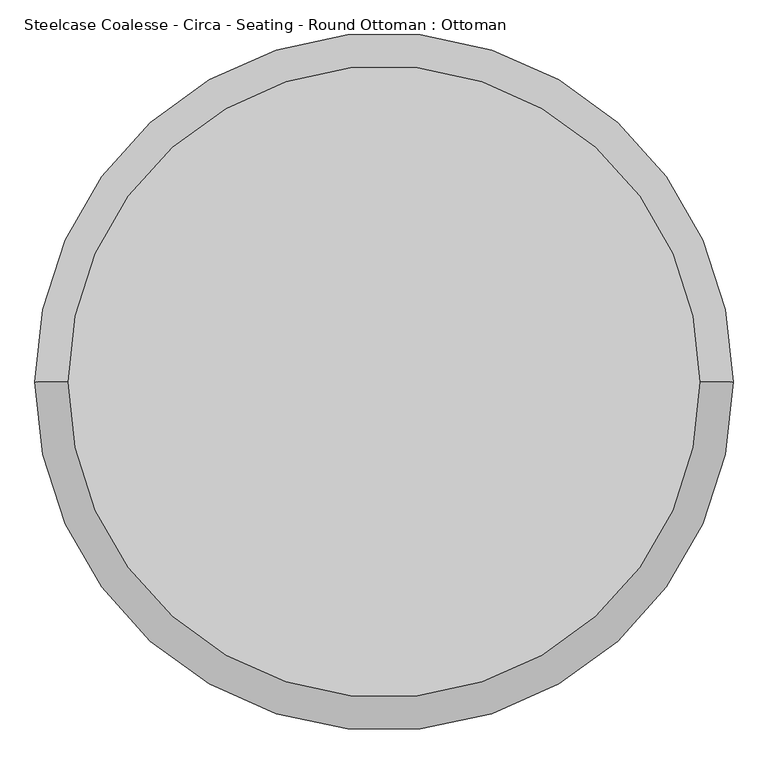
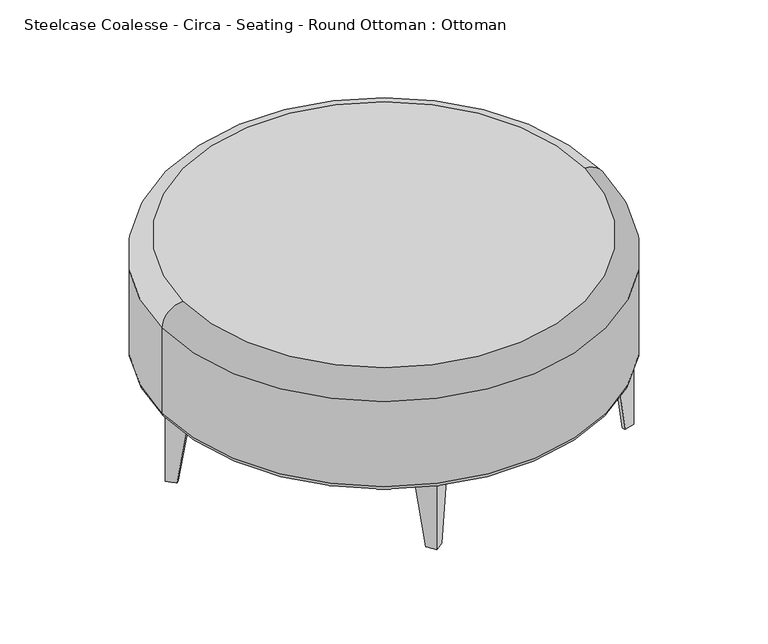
"""IFC4 building model written with IfcOpenShell, lengths in millimetres: furniture geometry, Steelcase Coalesse - Circa - Seating - Round Ottoman : Ottoman."""

from ifc_helpers import new_model, si_unit, point, frame, origin, place, context, project, spatial, circle_curve, ellipse_curve, trimmed, source, transform, mapped, element, save
from ifc_brep_helpers import plane_surface, cylinder_surface, revolved_surface, spline_surface, advanced_brep


def steelcase_coalesse_circa_seating_round_ottoman_ottoman_008e5c35(model_context):
    return source(origin(), model_context, "Body", "AdvancedBrep", [
        advanced_brep(
        [(-235.4429476, 526.8487146, 0.0), (-239.4164189, 501.7614365, 0.0), (-248.8235854, 503.2513255, 0.0), (-262.0188638, 521.4134724, 0.0), (-260.5286946, 530.8219434, 0.0), (-235.4425591, 526.8474513, 163.6120227), (-285.6152128, 534.794019, 163.6120227), (-287.1052077, 525.3866486, 163.6120227), (-252.7968369, 478.165435, 163.6120227), (-243.3891076, 476.6753832, 163.6120227)],
        [
            (0, 1),
            (1, 2),
            (2, 3),
            (3, 4),
            (4, 0),
            (5, 6),
            (6, 7),
            (7, 8),
            (8, 9),
            (9, 5),
            (9, 1),
            (0, 5),
            (8, 2),
            (7, 3),
            (6, 4),
        ],
        [
            plane_surface(frame((-249.2461021, 516.8193785, 0.0), z_axis=(0.0, 0.0, -1.0000000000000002), x_axis=(0.15643587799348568, 0.9876881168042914, 0.0))),
            plane_surface(frame((-260.8697848, 508.3737874, 163.6120227), z_axis=(0.0, 0.0, 1.0000000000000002), x_axis=(0.15643587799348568, 0.9876881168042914, 0.0))),
            plane_surface(frame((-239.4158333, 501.7614173, 163.6120227), z_axis=(0.9876881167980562, -0.15643587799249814, -3.553283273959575e-06), x_axis=(-0.15643587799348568, -0.9876881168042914, 0.0))),
            spline_surface(1, 1, [[(-243.3891076, 476.6753832, 163.6120227), (-239.4164189, 501.7614365, 0.0)], [(-252.7968369, 478.165435, 163.6120227), (-248.8235854, 503.2513255, 0.0)]], [2, 2], [2, 2], [0.0, 1.0], [0.0, 1.0]),
            spline_surface(1, 1, [[(-252.7968369, 478.165435, 163.6120227), (-248.8235854, 503.2513255, 0.0)], [(-287.1052077, 525.3866486, 163.6120227), (-262.0188638, 521.4134724, 0.0)]], [2, 2], [2, 2], [0.0, 1.0], [0.0, 1.0]),
            plane_surface(frame((-286.3602102, 530.0903338, 163.6120227), z_axis=(-0.9759977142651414, 0.15458428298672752, -0.15340195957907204), x_axis=(0.15643587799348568, 0.9876881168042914, 0.0))),
            spline_surface(1, 1, [[(-285.6152128, 534.794019, 163.6120227), (-260.5286946, 530.8219434, 0.0)], [(-235.4425591, 526.8474513, 163.6120227), (-235.4429476, 526.8487146, 0.0)]], [2, 2], [2, 2], [0.0, 1.0], [0.0, 1.0]),
        ],
        [
            (0, [[1, 2, 3, 4, 5]]),
            (1, [[6, 7, 8, 9, 10]]),
            (2, [[-10, 11, -1, 12]]),
            (3, [[-9, 13, -2, -11]]),
            (4, [[-8, 14, -3, -13]]),
            (5, [[-7, 15, -4, -14]]),
            (6, [[-6, -12, -5, -15]]),
        ],
    ),
        advanced_brep(
        [(-824.2709256, 713.206152, 0.0), (-801.4429342, 702.0722372, 0.0), (-805.6187364, 693.510543, 0.0), (-826.8450551, 686.2014839, 0.0), (-835.40552, 690.3767673, 0.0), (-824.2719684, 713.2053401, 163.6120227), (-846.540053, 667.5488349, 163.6120227), (-837.9790337, 663.373362, 163.6120227), (-782.7902862, 682.3762426, 163.6120227), (-778.6149726, 690.9369353, 163.6120227)],
        [
            (0, 1),
            (1, 2),
            (2, 3),
            (3, 4),
            (4, 0),
            (5, 6),
            (6, 7),
            (7, 8),
            (8, 9),
            (9, 5),
            (9, 1),
            (0, 5),
            (8, 2),
            (7, 3),
            (6, 4),
        ],
        [
            plane_surface(frame((-818.7166343, 697.0734367, 0.0), z_axis=(0.0, 0.0, -1.0), x_axis=(0.8987913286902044, -0.4383767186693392, 0.0))),
            plane_surface(frame((-814.0392628, 683.488143, 163.6120227), z_axis=(0.0, 0.0, 1.0), x_axis=(0.8987913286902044, -0.4383767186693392, 0.0))),
            spline_surface(1, 1, [[(-824.2719684, 713.2053401, 163.6120227), (-824.2709256, 713.206152, 0.0)], [(-778.6149726, 690.9369353, 163.6120227), (-801.4429342, 702.0722372, 0.0)]], [2, 2], [2, 2], [0.0, 1.0], [0.0, 1.0]),
            plane_surface(frame((-780.7026294, 686.656589, 163.6120227), z_axis=(0.888156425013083, -0.43318125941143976, -0.15340195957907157), x_axis=(-0.43836986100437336, -0.8987946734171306, 0.0))),
            spline_surface(1, 1, [[(-782.7902862, 682.3762426, 163.6120227), (-805.6187364, 693.510543, 0.0)], [(-837.9790337, 663.373362, 163.6120227), (-826.8450551, 686.2014839, 0.0)]], [2, 2], [2, 2], [0.0, 1.0], [0.0, 1.0]),
            spline_surface(1, 1, [[(-837.9790337, 663.373362, 163.6120227), (-826.8450551, 686.2014839, 0.0)], [(-846.540053, 667.5488349, 163.6120227), (-835.40552, 690.3767673, 0.0)]], [2, 2], [2, 2], [0.0, 1.0], [0.0, 1.0]),
            plane_surface(frame((-835.4060107, 690.3770875, 163.6120227), z_axis=(-0.8987946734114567, 0.438369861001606, -3.5532832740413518e-06), x_axis=(0.43836986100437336, 0.8987946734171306, 0.0))),
        ],
        [
            (0, [[1, 2, 3, 4, 5]]),
            (1, [[6, 7, 8, 9, 10]]),
            (2, [[-10, 11, -1, 12]]),
            (3, [[-9, 13, -2, -11]]),
            (4, [[-8, 14, -3, -13]]),
            (5, [[-7, 15, -4, -14]]),
            (6, [[-6, -12, -5, -15]]),
        ],
    ),
        advanced_brep(
        [(-240.9443374, -92.7037442, 0.0), (-265.3603945, -99.7048981, 0.0), (-267.9857368, -90.5494555, 0.0), (-257.1018072, -70.914817, 0.0), (-247.945064, -68.2891773, 0.0), (-240.9453181, -92.7046302, 163.6120227), (-254.9471616, -43.8743988, 163.6120227), (-264.1028338, -46.4997314, 163.6120227), (-292.4004434, -97.5502222, 163.6120227), (-289.7750107, -106.7062436, 163.6120227)],
        [
            (0, 1),
            (1, 2),
            (2, 3),
            (3, 4),
            (4, 0),
            (5, 6),
            (6, 7),
            (7, 8),
            (8, 9),
            (9, 5),
            (9, 1),
            (0, 5),
            (8, 2),
            (7, 3),
            (6, 4),
        ],
        [
            plane_surface(frame((-255.867468, -84.4324184, 0.0), z_axis=(0.0, 0.0, -1.0000000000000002), x_axis=(0.9612620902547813, 0.27563598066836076, 0.0))),
            plane_surface(frame((-268.4341535, -77.4670452, 163.6120227), z_axis=(0.0, 0.0, 1.0000000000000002), x_axis=(0.9612620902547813, 0.27563598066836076, 0.0))),
            plane_surface(frame((-265.3601644, -99.7054369, 163.6120227), z_axis=(0.2756359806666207, -0.961262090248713, -3.5532832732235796e-06), x_axis=(-0.9612620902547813, -0.27563598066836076, 0.0))),
            spline_surface(1, 1, [[(-289.7750107, -106.7062436, 163.6120227), (-265.3603945, -99.7048981, 0.0)], [(-292.4004434, -97.5502222, 163.6120227), (-267.9857368, -90.5494555, 0.0)]], [2, 2], [2, 2], [0.0, 1.0], [0.0, 1.0]),
            spline_surface(1, 1, [[(-292.4004434, -97.5502222, 163.6120227), (-267.9857368, -90.5494555, 0.0)], [(-264.1028338, -46.4997314, 163.6120227), (-257.1018072, -70.914817, 0.0)]], [2, 2], [2, 2], [0.0, 1.0], [0.0, 1.0]),
            plane_surface(frame((-259.5249977, -45.1870651, 163.6120227), z_axis=(-0.2723735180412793, 0.9498844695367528, -0.1534019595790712), x_axis=(0.9612620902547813, 0.27563598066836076, 0.0))),
            spline_surface(1, 1, [[(-254.9471616, -43.8743988, 163.6120227), (-247.945064, -68.2891773, 0.0)], [(-240.9453181, -92.7046302, 163.6120227), (-240.9443374, -92.7037442, 0.0)]], [2, 2], [2, 2], [0.0, 1.0], [0.0, 1.0]),
        ],
        [
            (0, [[1, 2, 3, 4, 5]]),
            (1, [[6, 7, 8, 9, 10]]),
            (2, [[-10, 11, -1, 12]]),
            (3, [[-9, 13, -2, -11]]),
            (4, [[-8, 14, -3, -13]]),
            (5, [[-7, 15, -4, -14]]),
            (6, [[-6, -12, -5, -15]]),
        ],
    ),
        advanced_brep(
        [(-824.5171767, -280.9402461, 0.0), (-839.0851588, -260.135075, 0.0), (-831.2821282, -254.6713175, 0.0), (-809.1736694, -258.569394, 0.0), (-803.7107356, -266.3713749, 0.0), (-824.515871, -280.9400416, 163.6120227), (-782.9050524, -251.803744, 163.6120227), (-788.3683792, -244.0013286, 163.6120227), (-845.8503247, -233.8655868, 163.6120227), (-853.6524424, -239.3287051, 163.6120227)],
        [
            (0, 1),
            (1, 2),
            (2, 3),
            (3, 4),
            (4, 0),
            (5, 6),
            (6, 7),
            (7, 8),
            (8, 9),
            (9, 5),
            (9, 1),
            (0, 5),
            (8, 2),
            (7, 3),
            (6, 4),
        ],
        [
            plane_surface(frame((-821.5537737, -264.1374815, 0.0), z_axis=(0.0, 0.0, -1.0000000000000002), x_axis=(-0.573571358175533, 0.8191556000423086, 0.0))),
            plane_surface(frame((-819.0584139, -249.9878812, 163.6120227), z_axis=(0.0, 0.0, 1.0000000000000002), x_axis=(-0.573571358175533, 0.8191556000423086, 0.0))),
            spline_surface(1, 1, [[(-824.515871, -280.9400416, 163.6120227), (-824.5171767, -280.9402461, 0.0)], [(-853.6524424, -239.3287051, 163.6120227), (-839.0851588, -260.135075, 0.0)]], [2, 2], [2, 2], [0.0, 1.0], [0.0, 1.0]),
            plane_surface(frame((-849.7513836, -236.597146, 163.6120227), z_axis=(-0.5667886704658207, 0.8094556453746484, -0.15340195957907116), x_axis=(0.8191512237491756, 0.5735776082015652, 0.0))),
            spline_surface(1, 1, [[(-845.8503247, -233.8655868, 163.6120227), (-831.2821282, -254.6713175, 0.0)], [(-788.3683792, -244.0013286, 163.6120227), (-809.1736694, -258.569394, 0.0)]], [2, 2], [2, 2], [0.0, 1.0], [0.0, 1.0]),
            spline_surface(1, 1, [[(-788.3683792, -244.0013286, 163.6120227), (-809.1736694, -258.569394, 0.0)], [(-782.9050524, -251.803744, 163.6120227), (-803.7107356, -266.3713749, 0.0)]], [2, 2], [2, 2], [0.0, 1.0], [0.0, 1.0]),
            plane_surface(frame((-803.7104617, -266.3718928, 163.6120227), z_axis=(0.5735776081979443, -0.8191512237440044, -3.553283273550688e-06), x_axis=(-0.8191512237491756, -0.5735776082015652, 0.0))),
        ],
        [
            (0, [[1, 2, 3, 4, 5]]),
            (1, [[6, 7, 8, 9, 10]]),
            (2, [[-10, 11, -1, 12]]),
            (3, [[-9, 13, -2, -11]]),
            (4, [[-8, 14, -3, -13]]),
            (5, [[-7, 15, -4, -14]]),
            (6, [[-6, -12, -5, -15]]),
        ],
    ),
        advanced_brep(
        [(-1189.7949987, 216.9513726, 0.0), (-1171.8344607, 234.9118592, 0.0), (-1165.099638, 228.1771199, 0.0), (-1165.0998756, 205.7276444, 0.0), (-1171.8356083, 198.9919309, 0.0), (-1189.7945704, 216.952623, 163.6120227), (-1153.8749162, 181.0329688, 163.6120227), (-1147.1399714, 187.7678943, 163.6120227), (-1147.1400935, 246.136613, 163.6120227), (-1153.8752759, 252.8718148, 163.6120227)],
        [
            (0, 1),
            (1, 2),
            (2, 3),
            (3, 4),
            (4, 0),
            (5, 6),
            (6, 7),
            (7, 8),
            (8, 9),
            (9, 5),
            (9, 1),
            (0, 5),
            (8, 2),
            (7, 3),
            (6, 4),
        ],
        [
            plane_surface(frame((-1172.7329163, 216.9519854, 0.0), z_axis=(0.0, 0.0, -1.0), x_axis=(-0.7071077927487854, -0.7071057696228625, 0.0))),
            plane_surface(frame((-1158.3649655, 216.9523828, 163.6120227), z_axis=(0.0, 0.0, 1.0), x_axis=(-0.7071077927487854, -0.7071057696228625, 0.0))),
            plane_surface(frame((-1171.8349232, 234.9122189, 163.6120227), z_axis=(-0.7071057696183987, 0.7071077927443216, -3.5532832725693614e-06), x_axis=(0.7071077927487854, 0.7071057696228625, 0.0))),
            spline_surface(1, 1, [[(-1153.8752759, 252.8718148, 163.6120227), (-1171.8344607, 234.9118592, 0.0)], [(-1147.1400935, 246.136613, 163.6120227), (-1165.099638, 228.1771199, 0.0)]], [2, 2], [2, 2], [0.0, 1.0], [0.0, 1.0]),
            spline_surface(1, 1, [[(-1147.1400935, 246.136613, 163.6120227), (-1165.099638, 228.1771199, 0.0)], [(-1147.1399714, 187.7678943, 163.6120227), (-1165.0998756, 205.7276444, 0.0)]], [2, 2], [2, 2], [0.0, 1.0], [0.0, 1.0]),
            plane_surface(frame((-1150.5074438, 184.4004316, 163.6120227), z_axis=(0.698736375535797, -0.6987383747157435, -0.1534019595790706), x_axis=(-0.7071077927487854, -0.7071057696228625, 0.0))),
            spline_surface(1, 1, [[(-1153.8749162, 181.0329688, 163.6120227), (-1171.8356083, 198.9919309, 0.0)], [(-1189.7945704, 216.952623, 163.6120227), (-1189.7949987, 216.9513726, 0.0)]], [2, 2], [2, 2], [0.0, 1.0], [0.0, 1.0]),
        ],
        [
            (0, [[1, 2, 3, 4, 5]]),
            (1, [[6, 7, 8, 9, 10]]),
            (2, [[-10, 11, -1, 12]]),
            (3, [[-9, 13, -2, -11]]),
            (4, [[-8, 14, -3, -13]]),
            (5, [[-7, 15, -4, -14]]),
            (6, [[-6, -12, -5, -15]]),
        ],
    ),
        advanced_brep(
        [(-1197.6585821, 216.4958746, 176.2125), (-130.0648321, 216.4958746, 176.2125), (-130.0648321, 216.4958746, 392.1125), (-1197.6585821, 216.4958746, 392.1125), (-142.7648321, 216.4958746, 163.5125), (-1184.9585821, 216.4958746, 163.5125), (-1146.8585821, 216.4958746, 442.9125), (-180.8648321, 216.4958746, 442.9125)],
        [
            (0, 1, circle_curve(frame((-663.8617071, 216.4958746, 176.2125), z_axis=(0.0, 0.0, 1.0), x_axis=(-1.0, 0.0, 0.0)), 533.796875)),
            (1, 2),
            (2, 3, circle_curve(frame((-663.8617071, 216.4958746, 392.1125), z_axis=(0.0, 0.0, -1.0), x_axis=(-1.0, 0.0, 0.0)), 533.796875)),
            (3, 0),
            (4, 5, circle_curve(frame((-663.8617071, 216.4958746, 163.5125), z_axis=(0.0, 0.0, -1.0), x_axis=(-1.0, 0.0, 0.0)), 521.096875)),
            (5, 4, circle_curve(frame((-663.8617071, 216.4958746, 163.5125), z_axis=(0.0, 0.0, -1.0), x_axis=(1.0, 0.0, 0.0)), 521.096875)),
            (3, 2, circle_curve(frame((-663.8617071, 216.4958746, 392.1125), z_axis=(0.0, 0.0, -1.0), x_axis=(1.0, 0.0, 0.0)), 533.796875)),
            (1, 0, circle_curve(frame((-663.8617071, 216.4958746, 176.2125), z_axis=(0.0, 0.0, 1.0), x_axis=(1.0, 0.0, 0.0)), 533.796875)),
            (6, 7, circle_curve(frame((-663.8617071, 216.4958746, 442.9125), z_axis=(0.0, 0.0, 1.0), x_axis=(-1.0, 0.0, 0.0)), 482.996875)),
            (7, 6, circle_curve(frame((-663.8617071, 216.4958746, 442.9125), z_axis=(0.0, 0.0, 1.0), x_axis=(1.0, 0.0, 0.0)), 482.996875)),
            (0, 5, circle_curve(frame((-1184.9585821, 216.4958746, 176.2125), z_axis=(0.0, -1.0, 0.0), x_axis=(1.0, 0.0, 0.0)), 12.7)),
            (4, 1, circle_curve(frame((-142.7648321, 216.4958746, 176.2125), z_axis=(0.0, -1.0, 0.0), x_axis=(-1.0, 0.0, 0.0)), 12.7)),
            (2, 7, circle_curve(frame((-180.8648321, 216.4958746, 392.1125), z_axis=(0.0, -1.0, 0.0), x_axis=(-1.0, 0.0, 0.0)), 50.8)),
            (6, 3, circle_curve(frame((-1146.8585821, 216.4958746, 392.1125), z_axis=(0.0, -1.0, 0.0), x_axis=(1.0, 0.0, 0.0)), 50.8)),
        ],
        [
            cylinder_surface(frame((-663.8617071, 216.4958746, 4.7625), z_axis=(0.0, 0.0, 1.0), x_axis=(-1.0, 0.0, 0.0)), 533.796875),
            plane_surface(frame((-663.8617071, 216.4958746, 163.5125), z_axis=(0.0, 0.0, -1.0), x_axis=(1.0, 0.0, 0.0))),
            cylinder_surface(frame((-663.8617071, 216.4958746, 4.7625), z_axis=(0.0, 0.0, 1.0), x_axis=(1.0, 0.0, 0.0)), 533.796875),
            plane_surface(frame((-663.8617071, 216.4958746, 442.9125), z_axis=(0.0, 0.0, 1.0), x_axis=(1.0, 0.0, 0.0))),
            revolved_surface(trimmed(ellipse_curve(frame((-1184.9585821, 216.4958746, 176.2125), z_axis=(0.0, 1.0, 0.0), x_axis=(1.0, 0.0, 0.0)), 12.7, 12.7), [point((-1184.9585821, 216.4958746, 163.5125))], [point((-1197.6585821, 216.4958746, 176.2125))], True, "CARTESIAN"), (-663.8617071, 216.4958746, 4.7625), (0.0, 0.0, 1.0)),
            revolved_surface(trimmed(ellipse_curve(frame((-1146.8585821, 216.4958746, 392.1125), z_axis=(0.0, 1.0, 0.0), x_axis=(1.0, 0.0, 0.0)), 50.8, 50.8), [point((-1197.6585821, 216.4958746, 392.1125))], [point((-1146.8585821, 216.4958746, 442.9125))], True, "CARTESIAN"), (-663.8617071, 216.4958746, 4.7625), (0.0, 0.0, 1.0)),
            revolved_surface(trimmed(ellipse_curve(frame((-142.7648321, 216.4958746, 176.2125), z_axis=(0.0, -1.0, 0.0), x_axis=(-1.0, 0.0, 0.0)), 12.7, 12.7), [point((-142.7648321, 216.4958746, 163.5125))], [point((-130.0648321, 216.4958746, 176.2125))], True, "CARTESIAN"), (-663.8617071, 216.4958746, 4.7625), (0.0, 0.0, 1.0)),
            revolved_surface(trimmed(ellipse_curve(frame((-180.8648321, 216.4958746, 392.1125), z_axis=(0.0, -1.0, 0.0), x_axis=(-1.0, 0.0, 0.0)), 50.8, 50.8), [point((-130.0648321, 216.4958746, 392.1125))], [point((-180.8648321, 216.4958746, 442.9125))], True, "CARTESIAN"), (-663.8617071, 216.4958746, 4.7625), (0.0, 0.0, 1.0)),
        ],
        [
            (0, [[1, 2, 3, 4]]),
            (1, [[5, 6]]),
            (2, [[-4, 7, -2, 8]]),
            (3, [[9, 10]]),
            (4, [[-1, 11, -5, 12]]),
            (5, [[-3, 13, -9, 14]]),
            (6, [[-11, -8, -12, -6]]),
            (7, [[-14, -10, -13, -7]]),
        ],
    ),
    ])


if __name__ == "__main__":
    model = new_model("IFC4")
    model_context = context("Model", 3, world=origin())
    ifc_project = project(units=[si_unit("LENGTHUNIT", "METRE", prefix="MILLI")], contexts=[model_context])
    site = spatial("IfcSite", under=ifc_project)
    building = spatial("IfcBuilding", under=site)
    placement = place(None, origin())
    steelcase_coalesse_circa_seating_round_ottoman_ottoman_shape = steelcase_coalesse_circa_seating_round_ottoman_ottoman_008e5c35(model_context)
    element("IfcFurniture", 1, ObjectType="Steelcase Coalesse - Circa - Seating - Round Ottoman : Ottoman", at=placement, inside=building, context=model_context, shape_type="MappedRepresentation", body=[
        mapped(steelcase_coalesse_circa_seating_round_ottoman_ottoman_shape, transform((0.0, 0.0, 0.0), x_axis=(1.0, 0.0, 0.0), y_axis=(0.0, 1.0, 0.0), z_axis=(0.0, 0.0, 1.0))),
    ])
    save(model, "model.ifc")
